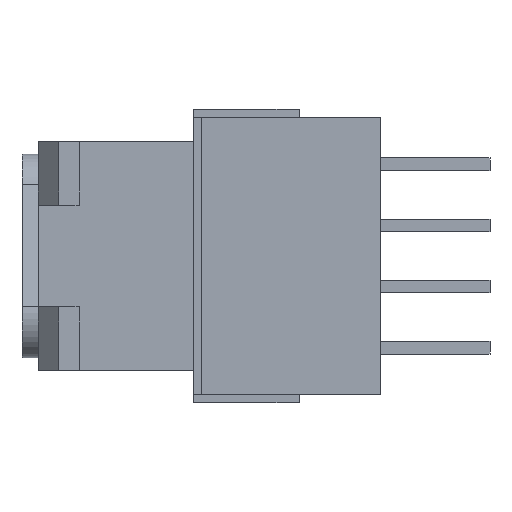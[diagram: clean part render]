
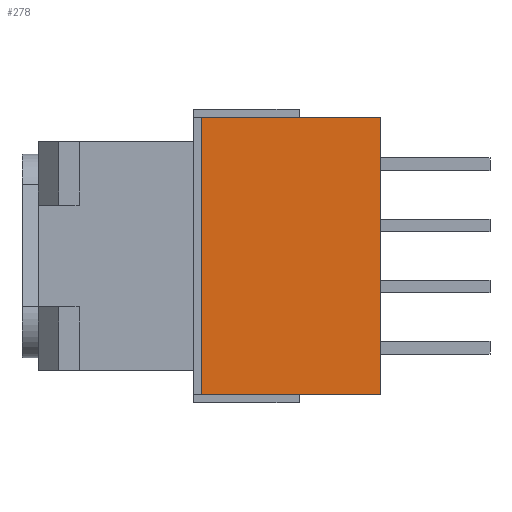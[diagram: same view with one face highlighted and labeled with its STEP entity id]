
A CAD part, left-side view. The second image highlights one B-rep face of the part: STEP entity #278.
In plain terms, the highlighted planar face has unit normal (-1, 0, 0).
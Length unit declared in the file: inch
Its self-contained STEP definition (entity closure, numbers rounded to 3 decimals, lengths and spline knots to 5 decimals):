
#278=ADVANCED_FACE('',(#596),#432,.T.);
#432=PLANE('',#3151);
#596=FACE_OUTER_BOUND('',#762,.T.);
#762=EDGE_LOOP('',(#1596,#1597,#1598,#1599));
#1596=ORIENTED_EDGE('',*,*,#2507,.F.);
#1597=ORIENTED_EDGE('',*,*,#2508,.F.);
#1598=ORIENTED_EDGE('',*,*,#2505,.T.);
#1599=ORIENTED_EDGE('',*,*,#2509,.T.);
#2041=VERTEX_POINT('',#5789);
#2042=VERTEX_POINT('',#5794);
#2043=VERTEX_POINT('',#5804);
#2044=VERTEX_POINT('',#5805);
#2505=EDGE_CURVE('',#2042,#2041,#2977,.T.);
#2507=EDGE_CURVE('',#2043,#2044,#2979,.T.);
#2508=EDGE_CURVE('',#2042,#2043,#2980,.T.);
#2509=EDGE_CURVE('',#2041,#2044,#2981,.T.);
#2977=B_SPLINE_CURVE_WITH_KNOTS('',3,(#5790,#5791,#5792,#5793),.UNSPECIFIED.,
.F.,.F.,(4,4),(0.,1.),.UNSPECIFIED.);
#2979=B_SPLINE_CURVE_WITH_KNOTS('',3,(#5800,#5801,#5802,#5803),.UNSPECIFIED.,
.F.,.F.,(4,4),(0.,1.),.UNSPECIFIED.);
#2980=B_SPLINE_CURVE_WITH_KNOTS('',3,(#5806,#5807,#5808,#5809),.UNSPECIFIED.,
.F.,.F.,(4,4),(0.,1.),.UNSPECIFIED.);
#2981=B_SPLINE_CURVE_WITH_KNOTS('',3,(#5810,#5811,#5812,#5813),.UNSPECIFIED.,
.F.,.F.,(4,4),(0.,1.),.UNSPECIFIED.);
#3151=AXIS2_PLACEMENT_3D('',#5814,#3472,#3473);
#3472=DIRECTION('',(-1.,0.,0.));
#3473=DIRECTION('',(0.,0.,1.));
#5789=CARTESIAN_POINT('',(-1.655,0.,-0.17));
#5790=CARTESIAN_POINT('',(-1.655,0.22,-0.17));
#5791=CARTESIAN_POINT('',(-1.655,0.14667,-0.17));
#5792=CARTESIAN_POINT('',(-1.655,0.07333,-0.17));
#5793=CARTESIAN_POINT('',(-1.655,0.,-0.17));
#5794=CARTESIAN_POINT('',(-1.655,0.22,-0.17));
#5800=CARTESIAN_POINT('',(-1.655,0.22,0.17));
#5801=CARTESIAN_POINT('',(-1.655,0.14667,0.17));
#5802=CARTESIAN_POINT('',(-1.655,0.07333,0.17));
#5803=CARTESIAN_POINT('',(-1.655,0.,0.17));
#5804=CARTESIAN_POINT('',(-1.655,0.22,0.17));
#5805=CARTESIAN_POINT('',(-1.655,0.,0.17));
#5806=CARTESIAN_POINT('',(-1.655,0.22,-0.17));
#5807=CARTESIAN_POINT('',(-1.655,0.22,-0.05667));
#5808=CARTESIAN_POINT('',(-1.655,0.22,0.05667));
#5809=CARTESIAN_POINT('',(-1.655,0.22,0.17));
#5810=CARTESIAN_POINT('',(-1.655,0.,-0.17));
#5811=CARTESIAN_POINT('',(-1.655,0.,-0.05667));
#5812=CARTESIAN_POINT('',(-1.655,0.,0.05667));
#5813=CARTESIAN_POINT('',(-1.655,0.,0.17));
#5814=CARTESIAN_POINT('',(-1.655,0.33,-0.34));
